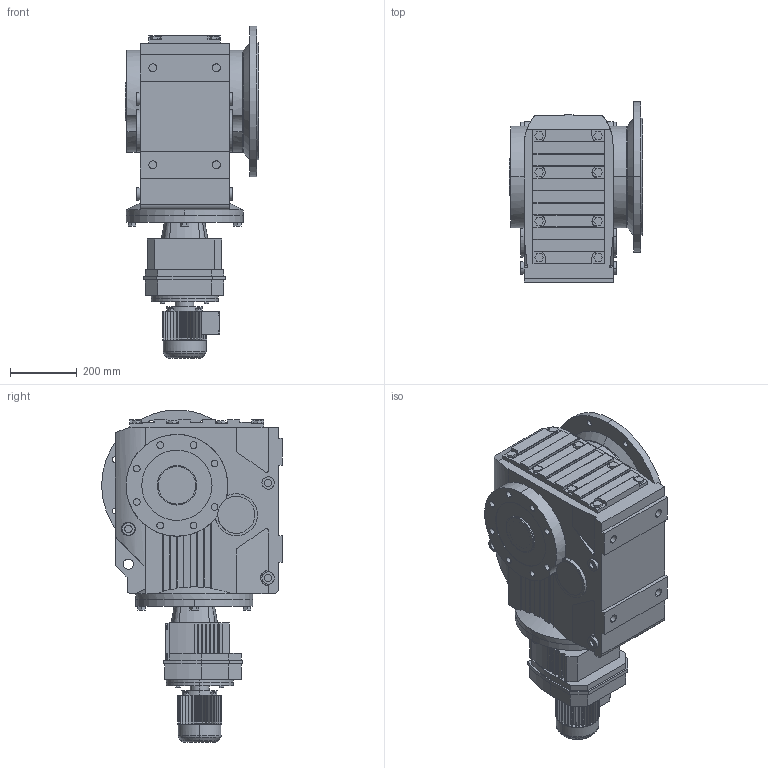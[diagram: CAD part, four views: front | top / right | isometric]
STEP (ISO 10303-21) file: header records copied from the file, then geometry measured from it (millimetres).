
FILE_DESCRIPTION(('Open CASCADE Model'),'2;1');
FILE_NAME('Open CASCADE Shape Model','2021-07-24T18:00:45',('Author'),( 'Open CASCADE'),'Open CASCADE STEP processor 6.3','Open CASCADE 6.3' ,'Unknown');
FILE_SCHEMA(('AUTOMOTIVE_DESIGN_CC2 { 1 2 10303 214 -1 1 5 4 }'));
Length unit declared in the file: millimetre
Products named in the file (6): 1_KAF107R77DR63-A; KA37‵107_107.step; 萇儂_200-DR63-179-234-132-105.step; R_107_77.step; す瑩諾陑粣K_107.step; 楊擘K_107.step
Assembly tree (5 placements, depth 2):
  1_KAF107R77DR63-A
    KA37‵107_107.step
    萇儂_200-DR63-179-234-132-105.step
    R_107_77.step
    す瑩諾陑粣K_107.step
    楊擘K_107.step
Bounding box: 397.75 x 540 x 992 mm (x, y, z)
Volume: 83996477.5 mm3; surface area: 2632050.9 mm2
Topology: 5 solids, 5 shells, 1125 faces, 2954 edges, 1932 vertices
Faces by surface type: plane 749, cylinder 354, cone 18, torus 4
Entity records: 83550 total; most frequent: CARTESIAN_POINT 27588, DIRECTION 9509, ORIENTED_EDGE 5908, PCURVE 5908, DEFINITIONAL_REPRESENTATION 5908, LINE 5192, VECTOR 5192, EDGE_CURVE 2954
